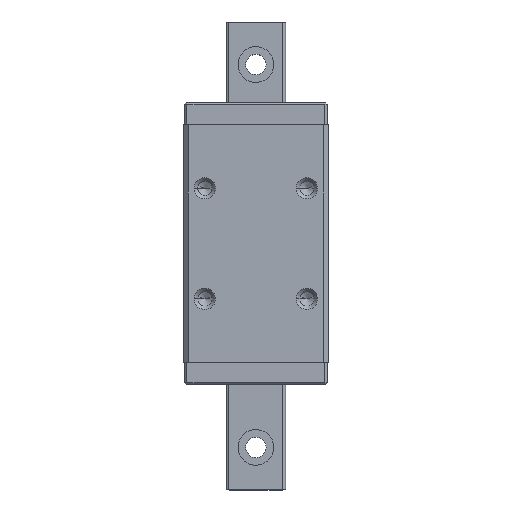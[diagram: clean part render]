
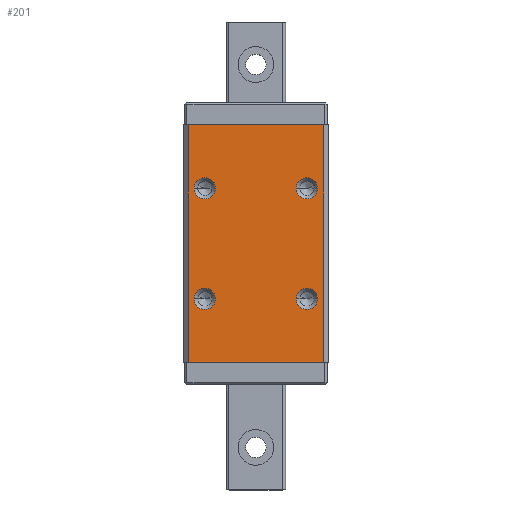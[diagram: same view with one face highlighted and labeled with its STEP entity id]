
A CAD part, top view. The second image highlights one B-rep face of the part: STEP entity #201.
In plain terms, the highlighted planar face has unit normal (0, 0, 1).
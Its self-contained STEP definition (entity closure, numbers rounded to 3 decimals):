
#201 = ADVANCED_FACE( '', ( #410, #411, #412, #413, #414 ), #415, .F. );
#410 = FACE_OUTER_BOUND( '', #662, .T. );
#411 = FACE_BOUND( '', #663, .T. );
#412 = FACE_BOUND( '', #664, .T. );
#413 = FACE_BOUND( '', #665, .T. );
#414 = FACE_BOUND( '', #666, .T. );
#415 = PLANE( '', #667 );
#662 = EDGE_LOOP( '', ( #1364, #1365, #1366, #1367 ) );
#663 = EDGE_LOOP( '', ( #1368, #1369 ) );
#664 = EDGE_LOOP( '', ( #1370, #1371 ) );
#665 = EDGE_LOOP( '', ( #1372, #1373 ) );
#666 = EDGE_LOOP( '', ( #1374, #1375 ) );
#667 = AXIS2_PLACEMENT_3D( '', #1376, #1377, #1378 );
#1364 = ORIENTED_EDGE( '', *, *, #1918, .T. );
#1365 = ORIENTED_EDGE( '', *, *, #1909, .T. );
#1366 = ORIENTED_EDGE( '', *, *, #1919, .F. );
#1367 = ORIENTED_EDGE( '', *, *, #1821, .F. );
#1368 = ORIENTED_EDGE( '', *, *, #1777, .T. );
#1369 = ORIENTED_EDGE( '', *, *, #1920, .T. );
#1370 = ORIENTED_EDGE( '', *, *, #1786, .T. );
#1371 = ORIENTED_EDGE( '', *, *, #1921, .T. );
#1372 = ORIENTED_EDGE( '', *, *, #1795, .T. );
#1373 = ORIENTED_EDGE( '', *, *, #1922, .T. );
#1374 = ORIENTED_EDGE( '', *, *, #1804, .T. );
#1375 = ORIENTED_EDGE( '', *, *, #1923, .T. );
#1376 = CARTESIAN_POINT( '', ( 88., 15., 8. ) );
#1377 = DIRECTION( '', ( 0., 0., -1. ) );
#1378 = DIRECTION( '', ( -1., 0., 0. ) );
#1777 = EDGE_CURVE( '', #2133, #2130, #2134, .T. );
#1786 = EDGE_CURVE( '', #2149, #2146, #2150, .T. );
#1795 = EDGE_CURVE( '', #2165, #2162, #2166, .T. );
#1804 = EDGE_CURVE( '', #2181, #2178, #2182, .T. );
#1821 = EDGE_CURVE( '', #2211, #2213, #2214, .T. );
#1909 = EDGE_CURVE( '', #2365, #2363, #2366, .T. );
#1918 = EDGE_CURVE( '', #2211, #2365, #2376, .T. );
#1919 = EDGE_CURVE( '', #2213, #2363, #2377, .T. );
#1920 = EDGE_CURVE( '', #2130, #2133, #2378, .T. );
#1921 = EDGE_CURVE( '', #2146, #2149, #2379, .T. );
#1922 = EDGE_CURVE( '', #2162, #2165, #2380, .T. );
#1923 = EDGE_CURVE( '', #2178, #2181, #2381, .T. );
#2130 = VERTEX_POINT( '', #2656 );
#2133 = VERTEX_POINT( '', #2660 );
#2134 = CIRCLE( '', #2661, 1.25 );
#2146 = VERTEX_POINT( '', #2678 );
#2149 = VERTEX_POINT( '', #2682 );
#2150 = CIRCLE( '', #2683, 1.25 );
#2162 = VERTEX_POINT( '', #2700 );
#2165 = VERTEX_POINT( '', #2704 );
#2166 = CIRCLE( '', #2705, 1.25 );
#2178 = VERTEX_POINT( '', #2722 );
#2181 = VERTEX_POINT( '', #2726 );
#2182 = CIRCLE( '', #2727, 1.25 );
#2211 = VERTEX_POINT( '', #2766 );
#2213 = VERTEX_POINT( '', #2769 );
#2214 = LINE( '', #2770, #2771 );
#2363 = VERTEX_POINT( '', #2985 );
#2365 = VERTEX_POINT( '', #2988 );
#2366 = LINE( '', #2989, #2990 );
#2376 = LINE( '', #3006, #3007 );
#2377 = LINE( '', #3008, #3009 );
#2378 = CIRCLE( '', #3010, 1.25 );
#2379 = CIRCLE( '', #3011, 1.25 );
#2380 = CIRCLE( '', #3012, 1.25 );
#2381 = CIRCLE( '', #3013, 1.25 );
#2656 = CARTESIAN_POINT( '', ( 75.25, 35.45, 8. ) );
#2660 = CARTESIAN_POINT( '', ( 72.75, 35.45, 8. ) );
#2661 = AXIS2_PLACEMENT_3D( '', #3307, #3308, #3309 );
#2678 = CARTESIAN_POINT( '', ( 87.25, 35.45, 8. ) );
#2682 = CARTESIAN_POINT( '', ( 84.75, 35.45, 8. ) );
#2683 = AXIS2_PLACEMENT_3D( '', #3322, #3323, #3324 );
#2700 = CARTESIAN_POINT( '', ( 87.25, 22.45, 8. ) );
#2704 = CARTESIAN_POINT( '', ( 84.75, 22.45, 8. ) );
#2705 = AXIS2_PLACEMENT_3D( '', #3337, #3338, #3339 );
#2722 = CARTESIAN_POINT( '', ( 75.25, 22.45, 8. ) );
#2726 = CARTESIAN_POINT( '', ( 72.75, 22.45, 8. ) );
#2727 = AXIS2_PLACEMENT_3D( '', #3352, #3353, #3354 );
#2766 = CARTESIAN_POINT( '', ( 88., 15., 8. ) );
#2769 = CARTESIAN_POINT( '', ( 72.03, 15., 8. ) );
#2770 = CARTESIAN_POINT( '', ( 88., 15., 8. ) );
#2771 = VECTOR( '', #3381, 1. );
#2985 = CARTESIAN_POINT( '', ( 72.03, 42.9, 8. ) );
#2988 = CARTESIAN_POINT( '', ( 88., 42.9, 8. ) );
#2989 = CARTESIAN_POINT( '', ( 88., 42.9, 8. ) );
#2990 = VECTOR( '', #3511, 1. );
#3006 = CARTESIAN_POINT( '', ( 88., 15., 8. ) );
#3007 = VECTOR( '', #3524, 1. );
#3008 = CARTESIAN_POINT( '', ( 72.03, 15., 8. ) );
#3009 = VECTOR( '', #3525, 1. );
#3010 = AXIS2_PLACEMENT_3D( '', #3526, #3527, #3528 );
#3011 = AXIS2_PLACEMENT_3D( '', #3529, #3530, #3531 );
#3012 = AXIS2_PLACEMENT_3D( '', #3532, #3533, #3534 );
#3013 = AXIS2_PLACEMENT_3D( '', #3535, #3536, #3537 );
#3307 = CARTESIAN_POINT( '', ( 74., 35.45, 8. ) );
#3308 = DIRECTION( '', ( 0., 0., -1. ) );
#3309 = DIRECTION( '', ( -1., 0., 0. ) );
#3322 = CARTESIAN_POINT( '', ( 86., 35.45, 8. ) );
#3323 = DIRECTION( '', ( 0., 0., -1. ) );
#3324 = DIRECTION( '', ( -1., 0., 0. ) );
#3337 = CARTESIAN_POINT( '', ( 86., 22.45, 8. ) );
#3338 = DIRECTION( '', ( 0., 0., -1. ) );
#3339 = DIRECTION( '', ( -1., 0., 0. ) );
#3352 = CARTESIAN_POINT( '', ( 74., 22.45, 8. ) );
#3353 = DIRECTION( '', ( 0., 0., -1. ) );
#3354 = DIRECTION( '', ( -1., 0., 0. ) );
#3381 = DIRECTION( '', ( -1., 0., 0. ) );
#3511 = DIRECTION( '', ( -1., 0., 0. ) );
#3524 = DIRECTION( '', ( 0., 1., 0. ) );
#3525 = DIRECTION( '', ( 0., 1., 0. ) );
#3526 = CARTESIAN_POINT( '', ( 74., 35.45, 8. ) );
#3527 = DIRECTION( '', ( 0., 0., -1. ) );
#3528 = DIRECTION( '', ( -1., 0., 0. ) );
#3529 = CARTESIAN_POINT( '', ( 86., 35.45, 8. ) );
#3530 = DIRECTION( '', ( 0., 0., -1. ) );
#3531 = DIRECTION( '', ( -1., 0., 0. ) );
#3532 = CARTESIAN_POINT( '', ( 86., 22.45, 8. ) );
#3533 = DIRECTION( '', ( 0., 0., -1. ) );
#3534 = DIRECTION( '', ( -1., 0., 0. ) );
#3535 = CARTESIAN_POINT( '', ( 74., 22.45, 8. ) );
#3536 = DIRECTION( '', ( 0., 0., -1. ) );
#3537 = DIRECTION( '', ( -1., 0., 0. ) );
